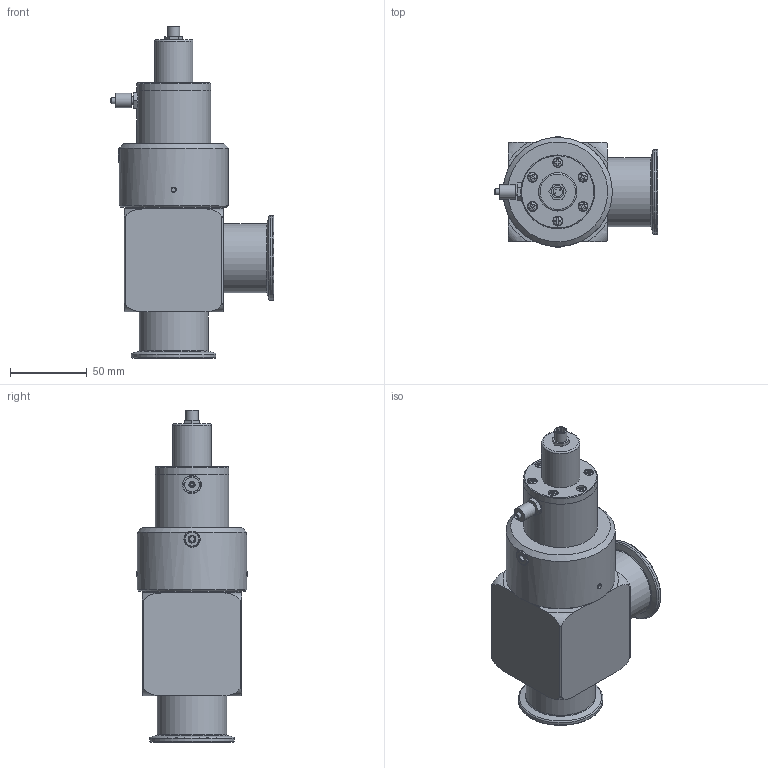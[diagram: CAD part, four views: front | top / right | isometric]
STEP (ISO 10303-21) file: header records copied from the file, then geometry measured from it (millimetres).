
FILE_DESCRIPTION( ( 'Unknown' ), '1' );
FILE_NAME( 'X:/Daten ( aktueller Bestand )/Projekte und Zeichnungen/Solid Edge/STP-Dateien/Eck-Durchg.ventile el.pneumatisch/311621.stp', 'Unknown', ( 'Unknown' ), ( 'Unknown' ), 'PSStep 14.0', 'Unknown', ' ' );
FILE_SCHEMA( ( 'AUTOMOTIVE_DESIGN { 1 0 10303 214 1 1 1 1 }' ) );
Length unit declared in the file: millimetre
Products named in the file (10): Assem1; 3102-2; M3x4; Eckvent. 40 Koerper VA; 3006-1; 3102-6; Eckvent.40 Stutzen KF; Schraube_3x8; Druckluftanschl.; Anschluss Festo
Assembly tree (15 placements, depth 2):
  Assem1
    3102-2
    M3x4  x2
    Eckvent. 40 Koerper VA
    3006-1
    3102-6
    Eckvent.40 Stutzen KF
    Schraube_3x8  x6
    Druckluftanschl.
    Anschluss Festo
Bounding box: 106.2 x 72 x 216 mm (x, y, z)
Volume: 594647.5 mm3; surface area: 96248.5 mm2
Topology: 15 solids, 15 shells, 308 faces, 700 edges, 460 vertices
Faces by surface type: plane 181, cylinder 77, cone 28, torus 16, sphere 6
Full cylindrical faces by diameter (mm): 0.5 x3, 2 x1, 2.459 x6, 2.8 x1, 3 x9, 3.242 x2, 3.3 x6, 4 x1, 4.134 x2, 5 x2, 5.793 x6, 6 x2, 6.5 x6, 7.459 x1, 8 x1, 9.518 x1, 10 x1, 10.5 x1, 12 x1, 16.913 x1, 19 x1, 20 x1, 25 x1, 26 x1, 33.739 x1, 37.97 x1, 40 x1, 41.2 x2, 45 x3, 48 x2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
Entity records: 7470 total; most frequent: CARTESIAN_POINT 1630, DIRECTION 880, ORIENTED_EDGE 626, AXIS2_PLACEMENT_3D 381, EDGE_LOOP 357, EDGE_CURVE 313, FACE_OUTER_BOUND 274, VERTEX_POINT 261
